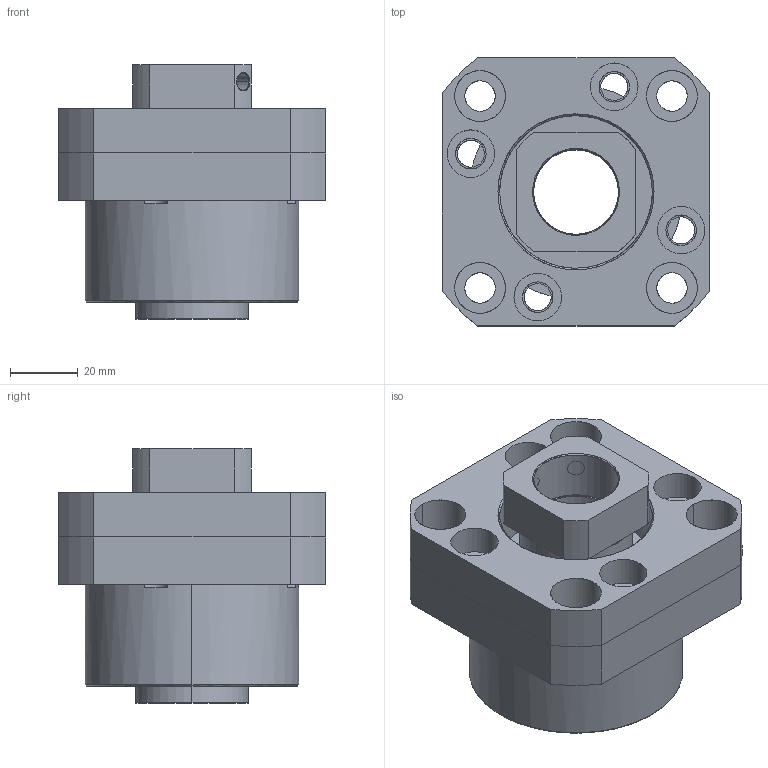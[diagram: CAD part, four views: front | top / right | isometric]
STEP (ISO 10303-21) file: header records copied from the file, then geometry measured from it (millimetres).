
FILE_DESCRIPTION(/* description */ (''),/* implementation_level */ '2;1');
FILE_NAME(/* name */ 'P:\01_PRODUTOS OBR\Mancais\FK\STEP\fk25.stp',/* time_stamp */ '2019-08-09T16:55:30-03:00',/* author */ ('Engenharia2'),/* organization */ (''),/* preprocessor_version */ 'ST-DEVELOPER v15.2',/* originating_system */ 'Autodesk Inventor 2014',/* authorisation */ '');
FILE_SCHEMA (('AUTOMOTIVE_DESIGN { 1 0 10303 214 3 1 1 }'));
Length unit declared in the file: millimetre
Products named in the file (1): fk25
Bounding box: 79 x 79 x 75 mm (x, y, z)
Surface area: 71225.3 mm2 (no closed solid volume)
Topology: 0 solids, 176 shells, 176 faces, 1191 edges, 1613 vertices
Faces by surface type: bspline 80, plane 38, torus 32, cylinder 26
Entity records: 16076 total; most frequent: CARTESIAN_POINT 7878, DIRECTION 1786, VERTEX_POINT 769, EDGE_CURVE 769, ORIENTED_EDGE 769, AXIS2_PLACEMENT_3D 666, CIRCLE 549, LINE 454
